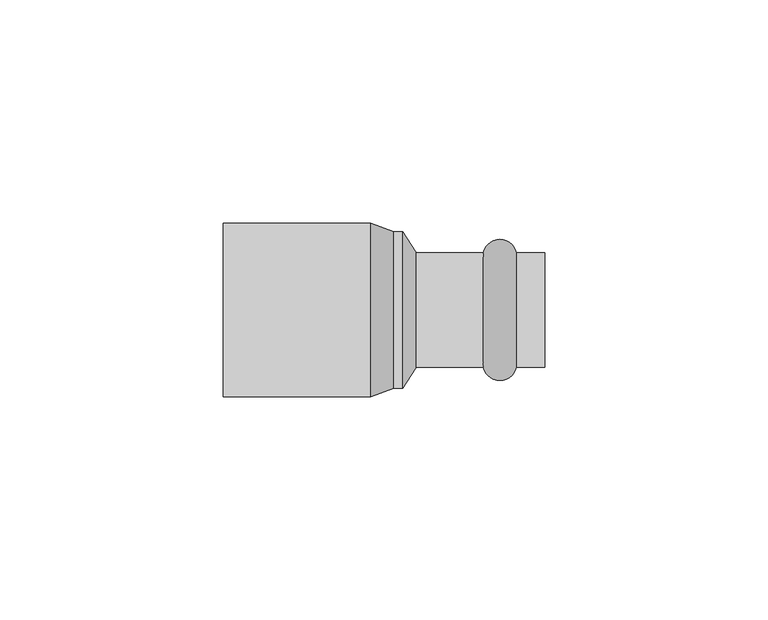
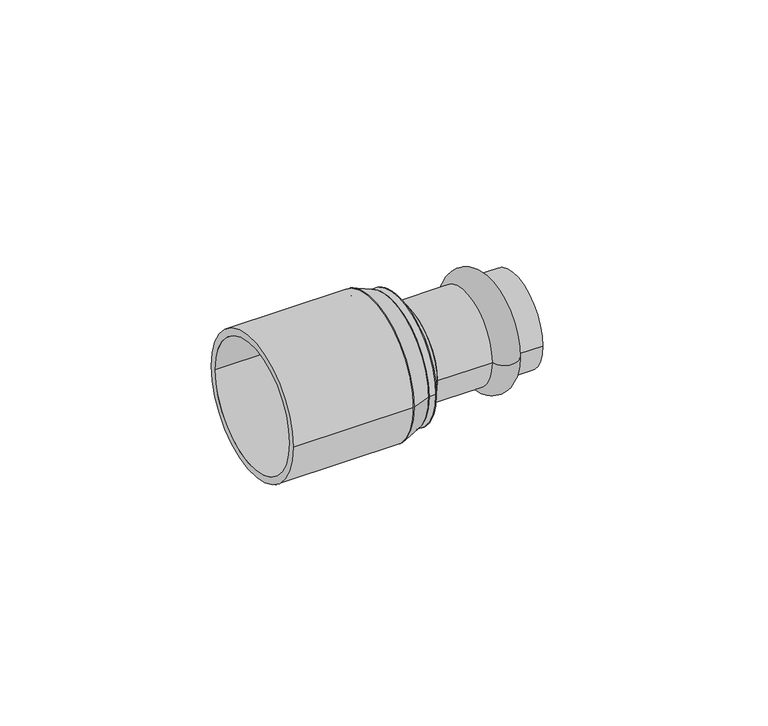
"""IFC4 building model written with IfcOpenShell, lengths in millimetres: pipe fitting geometry, VALTEC_VTi.905.I_Вставка переходная_Нержавеющая сталь : VTi.905.I."""

from ifc_helpers import new_model, si_unit, point, frame, origin, origin_2d, place, context, project, spatial, polyline, circle_curve, ellipse_curve, trimmed, segment, composite_curve, outline, extrude, source, transform, mapped, element, save
from ifc_brep_helpers import plane_surface, cylinder_surface, revolved_surface, advanced_brep


def pipe_fitting_62a8c9a3(model_context):
    return source(origin(), model_context, "Body", "SolidModel", [
        advanced_brep(
        [(29.6242346, -12.8, 0.0), (22.2757654, -12.8, 0.0), (22.2757654, 12.8, 0.0), (29.6242346, 12.8, 0.0), (36.0, -12.8, 0.0), (36.0, 12.8, 0.0), (36.0, -11.0, 0.0), (36.0, 11.0, 0.0), (7.2, -11.0, 0.0), (7.2, 11.0, 0.0), (7.2, -12.8, 0.0), (7.2, 12.8, 0.0)],
        [
            (0, 1, circle_curve(frame((25.95, -12.05, 0.0), z_axis=(0.0, 0.0, -1.0), x_axis=(-1.0, 0.0, 0.0)), 3.75)),
            (1, 2, circle_curve(frame((22.2757654, 0.0, 0.0), z_axis=(1.0, 0.0, 0.0), x_axis=(0.0, 1.0, 0.0)), 12.8)),
            (2, 3, circle_curve(frame((25.95, 12.05, 0.0), z_axis=(0.0, 0.0, -1.0), x_axis=(-1.0, 0.0, 0.0)), 3.75)),
            (3, 0, circle_curve(frame((29.6242346, 0.0, 0.0), z_axis=(-1.0, 0.0, 0.0), x_axis=(0.0, 1.0, 0.0)), 12.8)),
            (2, 1, circle_curve(frame((22.2757654, 0.0, 0.0), z_axis=(1.0, 0.0, 0.0), x_axis=(0.0, 1.0, 0.0)), 12.8)),
            (0, 3, circle_curve(frame((29.6242346, 0.0, 0.0), z_axis=(-1.0, 0.0, 0.0), x_axis=(0.0, 1.0, 0.0)), 12.8)),
            (4, 0),
            (3, 5),
            (5, 4, circle_curve(frame((36.0, 0.0, 0.0), z_axis=(-1.0, 0.0, 0.0), x_axis=(0.0, 1.0, 0.0)), 12.8)),
            (4, 5, circle_curve(frame((36.0, 0.0, 0.0), z_axis=(-1.0, 0.0, 0.0), x_axis=(0.0, 1.0, 0.0)), 12.8)),
            (6, 4),
            (5, 7),
            (7, 6, circle_curve(frame((36.0, 0.0, 0.0), z_axis=(-1.0, 0.0, 0.0), x_axis=(0.0, 1.0, 0.0)), 11.0)),
            (6, 7, circle_curve(frame((36.0, 0.0, 0.0), z_axis=(-1.0, 0.0, 0.0), x_axis=(0.0, 1.0, 0.0)), 11.0)),
            (8, 6),
            (7, 9),
            (9, 8, circle_curve(frame((7.2, 0.0, 0.0), z_axis=(-1.0, 0.0, 0.0), x_axis=(0.0, 1.0, 0.0)), 11.0)),
            (8, 9, circle_curve(frame((7.2, 0.0, 0.0), z_axis=(-1.0, 0.0, 0.0), x_axis=(0.0, 1.0, 0.0)), 11.0)),
            (10, 8),
            (9, 11),
            (11, 10, circle_curve(frame((7.2, 0.0, 0.0), z_axis=(-1.0, 0.0, 0.0), x_axis=(0.0, 1.0, 0.0)), 12.8)),
            (10, 11, circle_curve(frame((7.2, 0.0, 0.0), z_axis=(-1.0, 0.0, 0.0), x_axis=(0.0, 1.0, 0.0)), 12.8)),
            (1, 10),
            (11, 2),
        ],
        [
            revolved_surface(trimmed(ellipse_curve(frame((25.95, 12.05, 0.0), z_axis=(0.0, 0.0, -1.0), x_axis=(-1.0, 0.0, 0.0)), 3.75, 3.75), [point((22.2757654, 12.8, 0.0))], [point((29.6242346, 12.8, 0.0))], True, "CARTESIAN"), (39.5364426, 0.0, 0.0), (1.0, 0.0, 0.0)),
            cylinder_surface(frame((39.5364426, 0.0, 0.0), z_axis=(1.0, 0.0, 0.0), x_axis=(0.0, 1.0, 0.0)), 12.8),
            plane_surface(frame((36.0, 0.0, 0.0), z_axis=(1.0, 0.0, 0.0), x_axis=(0.0, 1.0, 0.0))),
            revolved_surface(polyline([(36.0, 11.0, 0.0), (7.200000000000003, 11.0, 0.0)]), (39.5364426, 0.0, 0.0), (1.0, 0.0, 0.0)),
            plane_surface(frame((7.2, 0.0, 0.0), z_axis=(-1.0, 0.0, 0.0), x_axis=(0.0, 1.0, 0.0))),
        ],
        [
            (0, [[1, 2, 3, 4]]),
            (0, [[-3, 5, -1, 6]]),
            (1, [[7, -4, 8, 9]]),
            (1, [[-8, -6, -7, 10]]),
            (2, [[11, -9, 12, 13]]),
            (2, [[-12, -10, -11, 14]]),
            (3, [[15, -13, 16, 17]]),
            (3, [[-16, -14, -15, 18]]),
            (4, [[19, -17, 20, 21]]),
            (4, [[-20, -18, -19, 22]]),
            (1, [[23, -21, 24, -2]]),
            (1, [[-24, -22, -23, -5]]),
        ],
    ),
        advanced_brep(
        [(4.2, -17.5, 0.0), (4.2, 17.5, 0.0), (7.2, -12.8, 0.0), (7.2, 12.8, 0.0)],
        [
            (0, 1, circle_curve(frame((4.2, 0.0, 0.0), z_axis=(-1.0, 0.0, 0.0), x_axis=(0.0, -1.0, 0.0)), 17.5)),
            (1, 0, circle_curve(frame((4.2, 0.0, 0.0), z_axis=(-1.0, 0.0, 0.0), x_axis=(0.0, 1.0, 0.0)), 17.5)),
            (2, 3, circle_curve(frame((7.2, 0.0, 0.0), z_axis=(1.0, 0.0, 0.0), x_axis=(0.0, 1.0, 0.0)), 12.8)),
            (3, 2, circle_curve(frame((7.2, 0.0, 0.0), z_axis=(1.0, 0.0, 0.0), x_axis=(0.0, -1.0, 0.0)), 12.8)),
            (2, 0),
            (1, 3),
        ],
        [
            plane_surface(frame((4.2, 0.0, 0.0), z_axis=(-1.0, 0.0, 0.0), x_axis=(0.0, 0.0, 1.0))),
            plane_surface(frame((7.2, 0.0, 0.0), z_axis=(1.0, 0.0, 0.0), x_axis=(0.0, 0.0, 1.0))),
            revolved_surface(polyline([(7.200000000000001, -12.800000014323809, 0.0), (4.200000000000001, -17.5, 0.0)]), (15.3702128, 0.0, 0.0), (-1.0, 0.0, 0.0)),
            revolved_surface(polyline([(7.200000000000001, 12.800000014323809, 0.0), (4.200000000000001, 17.5, 0.0)]), (15.3702128, 0.0, 0.0), (-1.0, 0.0, 0.0)),
        ],
        [
            (0, [[1, 2]]),
            (1, [[3, 4]]),
            (2, [[-3, 5, -2, 6]]),
            (3, [[-4, -6, -1, -5]]),
        ],
    ),
        extrude(outline(composite_curve([segment(trimmed(circle_curve(origin_2d(), 17.5), [point((-17.5, 0.0))], [point((17.5, 0.0))], False, "CARTESIAN"), True, "CONTINUOUS"), segment(trimmed(circle_curve(origin_2d(), 17.5), [point((17.5, 0.0))], [point((-17.5, 0.0))], False, "CARTESIAN"), True, "CONTINUOUS")], self_intersect=False)), frame((2.2, 0.0, 0.0), z_axis=(1.0, 0.0, 0.0), x_axis=(0.0, 1.0, 0.0)), (0.0, 0.0, 1.0), 2.0),
        advanced_brep(
        [(2.2, -17.5, 0.0), (2.2, 17.5, 0.0), (-3.0, -19.4, 0.0), (-3.0, 19.4, 0.0)],
        [
            (0, 1, circle_curve(frame((2.2, 0.0, 0.0), z_axis=(1.0, 0.0, 0.0), x_axis=(0.0, -1.0, 0.0)), 17.5)),
            (1, 0, circle_curve(frame((2.2, 0.0, 0.0), z_axis=(1.0, 0.0, 0.0), x_axis=(0.0, 1.0, 0.0)), 17.5)),
            (2, 3, circle_curve(frame((-3.0, 0.0, 0.0), z_axis=(-1.0, 0.0, 0.0), x_axis=(0.0, 1.0, 0.0)), 19.4)),
            (3, 2, circle_curve(frame((-3.0, 0.0, 0.0), z_axis=(-1.0, 0.0, 0.0), x_axis=(0.0, -1.0, 0.0)), 19.4)),
            (3, 1),
            (0, 2),
        ],
        [
            plane_surface(frame((2.2, 0.0, 0.0), z_axis=(1.0, 0.0, 0.0), x_axis=(0.0, 0.0, -1.0))),
            plane_surface(frame((-3.0, 0.0, 0.0), z_axis=(-1.0, 0.0, 0.0), x_axis=(0.0, 0.0, -1.0))),
            revolved_surface(polyline([(2.200000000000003, -17.49999999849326, 0.0), (-3.0, -19.4, 0.0)]), (50.0947368, 0.0, 0.0), (-1.0, 0.0, 0.0)),
            revolved_surface(polyline([(2.200000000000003, 17.49999999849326, 0.0), (-3.0, 19.4, 0.0)]), (50.0947368, 0.0, 0.0), (-1.0, 0.0, 0.0)),
        ],
        [
            (0, [[1, 2]]),
            (1, [[3, 4]]),
            (2, [[-4, 5, -1, 6]]),
            (3, [[-3, -6, -2, -5]]),
        ],
    ),
        extrude(outline(composite_curve([segment(trimmed(circle_curve(origin_2d(), 19.4), [point((-19.4, 0.0))], [point((19.4, 0.0))], False, "CARTESIAN"), True, "CONTINUOUS"), segment(trimmed(circle_curve(origin_2d(), 19.4), [point((19.4, 0.0))], [point((-19.4, 0.0))], False, "CARTESIAN"), True, "CONTINUOUS")], self_intersect=False), holes=[composite_curve([segment(trimmed(circle_curve(origin_2d(), 17.5), [point((-17.5, 0.0))], [point((17.5, 0.0))], True, "CARTESIAN"), True, "CONTINUOUS"), segment(trimmed(circle_curve(origin_2d(), 17.5), [point((17.5, 0.0))], [point((-17.5, 0.0))], True, "CARTESIAN"), True, "CONTINUOUS")], self_intersect=False)]), frame((-36.0, 0.0, 0.0), z_axis=(1.0, 0.0, 0.0), x_axis=(0.0, 1.0, 0.0)), (0.0, 0.0, 1.0), 33.0),
    ])


if __name__ == "__main__":
    model = new_model("IFC4")
    model_context = context("Model", 3, world=origin())
    ifc_project = project(units=[si_unit("LENGTHUNIT", "METRE", prefix="MILLI")], contexts=[model_context])
    site = spatial("IfcSite", under=ifc_project)
    building = spatial("IfcBuilding", under=site)
    placement = place(None, origin())
    pipe_fitting_shape = pipe_fitting_62a8c9a3(model_context)
    element("IfcPipeFitting", 1, ObjectType="VALTEC_VTi.905.I_Вставка переходная_Нержавеющая сталь : VTi.905.I", at=placement, inside=building, context=model_context, shape_type="MappedRepresentation", body=[
        mapped(pipe_fitting_shape, transform((0.0, 0.0, 0.0), x_axis=(1.0, 0.0, 0.0), y_axis=(0.0, 1.0, 0.0), z_axis=(0.0, 0.0, 1.0))),
    ])
    save(model, "model.ifc")
